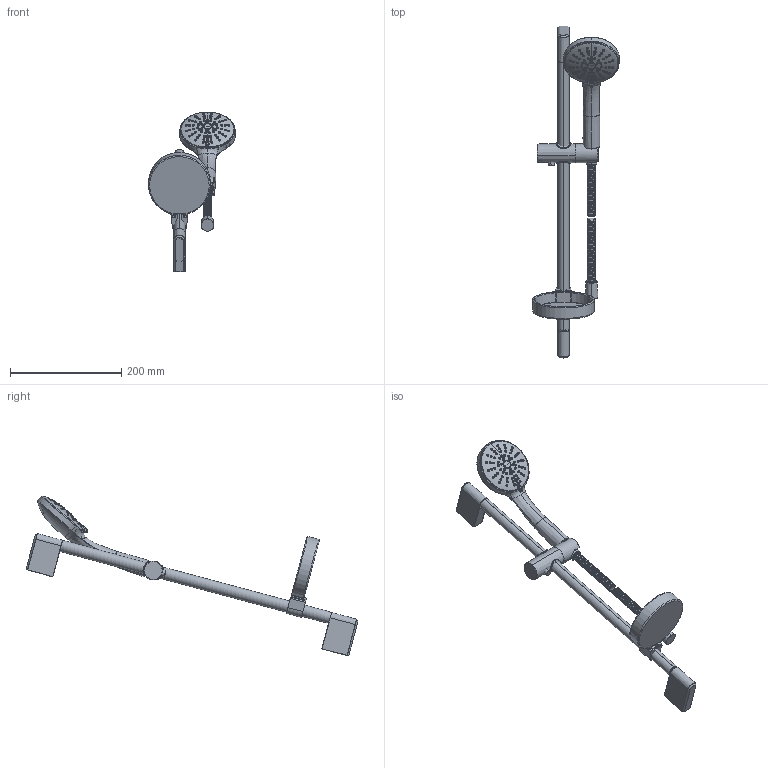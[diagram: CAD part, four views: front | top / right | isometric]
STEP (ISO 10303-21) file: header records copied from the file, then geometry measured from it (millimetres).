
FILE_DESCRIPTION((''),'2;1');
FILE_NAME('76519--','2026-09-24T11:33:00',('simi1'),(''),'CREO PARAMETRIC BY PTC INC, 2022244','CREO PARAMETRIC BY PTC INC, 2022244','');
FILE_SCHEMA(('CONFIG_CONTROL_DESIGN'));
Length unit declared in the file: millimetre
Products named in the file (1): 76519--
Bounding box: 155.88 x 596.1 x 286.83 mm (x, y, z)
Surface area: 202073.4 mm2 (no closed solid volume)
Topology: 0 solids, 103 shells, 957 faces, 3031 edges, 2128 vertices
Faces by surface type: cylinder 234, plane 206, torus 194, cone 154, bspline 148, sphere 10, revolution 9, extrusion 2
Entity records: 64270 total; most frequent: CARTESIAN_POINT 39624, ORIENTED_EDGE 5081, DIRECTION 4714, EDGE_CURVE 3023, VERTEX_POINT 2128, AXIS2_PLACEMENT_3D 1865, CIRCLE 1067, B_SPLINE_CURVE_WITH_KNOTS 994
